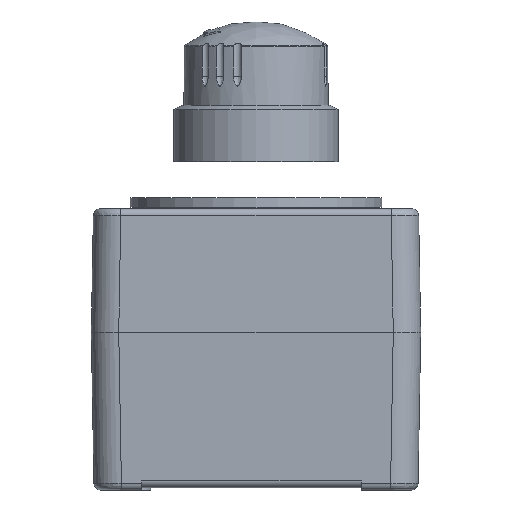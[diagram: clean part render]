
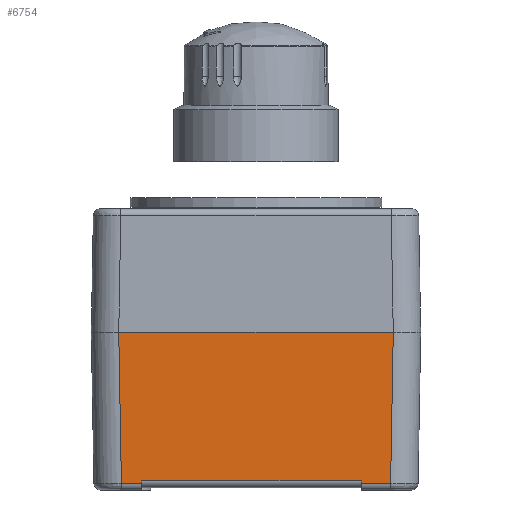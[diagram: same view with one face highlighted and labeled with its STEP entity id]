
A CAD part, left-side view. The second image highlights one B-rep face of the part: STEP entity #6754.
In plain terms, the highlighted planar face has unit normal (-1, 0, -0.018).
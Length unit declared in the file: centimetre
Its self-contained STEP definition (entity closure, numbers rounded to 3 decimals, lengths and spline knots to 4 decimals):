
#1016=FACE_OUTER_BOUND('',#1410,.T.);
#1410=EDGE_LOOP('',(#4740,#4741,#4742,#4743,#4744,#4745,#4746,#4747));
#1863=LINE('',#15453,#2256);
#1866=LINE('',#15465,#2259);
#1875=LINE('',#15490,#2268);
#1876=LINE('',#15492,#2269);
#1877=LINE('',#15494,#2270);
#1878=LINE('',#15496,#2271);
#1879=LINE('',#15497,#2272);
#1880=LINE('',#15498,#2273);
#2256=VECTOR('',#8426,1.);
#2259=VECTOR('',#8437,1.);
#2268=VECTOR('',#8458,1.);
#2269=VECTOR('',#8459,1.);
#2270=VECTOR('',#8460,1.);
#2271=VECTOR('',#8461,1.);
#2272=VECTOR('',#8462,1.);
#2273=VECTOR('',#8463,1.);
#2762=VERTEX_POINT('',#15449);
#2764=VERTEX_POINT('',#15452);
#2767=VERTEX_POINT('',#15459);
#2769=VERTEX_POINT('',#15463);
#2779=VERTEX_POINT('',#15489);
#2780=VERTEX_POINT('',#15491);
#2781=VERTEX_POINT('',#15493);
#2782=VERTEX_POINT('',#15495);
#3506=EDGE_CURVE('',#2762,#2764,#1863,.T.);
#3512=EDGE_CURVE('',#2769,#2767,#1866,.T.);
#3524=EDGE_CURVE('',#2779,#2762,#1875,.T.);
#3525=EDGE_CURVE('',#2780,#2779,#1876,.T.);
#3526=EDGE_CURVE('',#2781,#2780,#1877,.T.);
#3527=EDGE_CURVE('',#2782,#2781,#1878,.T.);
#3528=EDGE_CURVE('',#2767,#2782,#1879,.T.);
#3529=EDGE_CURVE('',#2769,#2764,#1880,.T.);
#4740=ORIENTED_EDGE('',*,*,#3524,.F.);
#4741=ORIENTED_EDGE('',*,*,#3525,.F.);
#4742=ORIENTED_EDGE('',*,*,#3526,.F.);
#4743=ORIENTED_EDGE('',*,*,#3527,.F.);
#4744=ORIENTED_EDGE('',*,*,#3528,.F.);
#4745=ORIENTED_EDGE('',*,*,#3512,.F.);
#4746=ORIENTED_EDGE('',*,*,#3529,.T.);
#4747=ORIENTED_EDGE('',*,*,#3506,.F.);
#6112=PLANE('',#7283);
#6754=ADVANCED_FACE('',(#1016),#6112,.T.);
#7283=AXIS2_PLACEMENT_3D('',#15488,#8456,#8457);
#8426=DIRECTION('',(-0.017,0.017,1.));
#8437=DIRECTION('',(0.017,0.017,-1.));
#8456=DIRECTION('center_axis',(-1.,0.,
-0.017));
#8457=DIRECTION('ref_axis',(-0.017,0.,1.));
#8458=DIRECTION('',(0.,1.,0.));
#8459=DIRECTION('',(0.017,0.,-1.));
#8460=DIRECTION('',(0.,1.,0.));
#8461=DIRECTION('',(-0.017,0.,1.));
#8462=DIRECTION('',(0.,1.,0.));
#8463=DIRECTION('',(0.,1.,0.));
#15449=CARTESIAN_POINT('',(-1.4632,1.0874,0.0974));
#15452=CARTESIAN_POINT('',(-1.5209,1.145,3.4));
#15453=CARTESIAN_POINT('',(-1.4607,1.0848,-0.0508));
#15459=CARTESIAN_POINT('',(-1.4632,-4.7975,0.0974));
#15463=CARTESIAN_POINT('',(-1.5209,-4.8552,3.4));
#15465=CARTESIAN_POINT('',(-1.4607,-4.7949,-0.0508));
#15488=CARTESIAN_POINT('Origin',(-1.4615,-5.4551,0.0005));
#15489=CARTESIAN_POINT('',(-1.4632,0.6449,0.0974));
#15490=CARTESIAN_POINT('',(-1.4632,-2.1152,0.0974));
#15491=CARTESIAN_POINT('',(-1.4641,0.6449,0.1474));
#15492=CARTESIAN_POINT('',(-1.4616,0.6449,0.0008));
#15493=CARTESIAN_POINT('',(-1.4641,-4.1551,0.1474));
#15494=CARTESIAN_POINT('',(-1.4641,-3.6551,0.1474));
#15495=CARTESIAN_POINT('',(-1.4632,-4.1551,0.0974));
#15496=CARTESIAN_POINT('',(-1.4613,-4.1551,-0.0141));
#15497=CARTESIAN_POINT('',(-1.4632,-5.1396,0.0974));
#15498=CARTESIAN_POINT('',(-1.5209,-3.6551,3.4));
